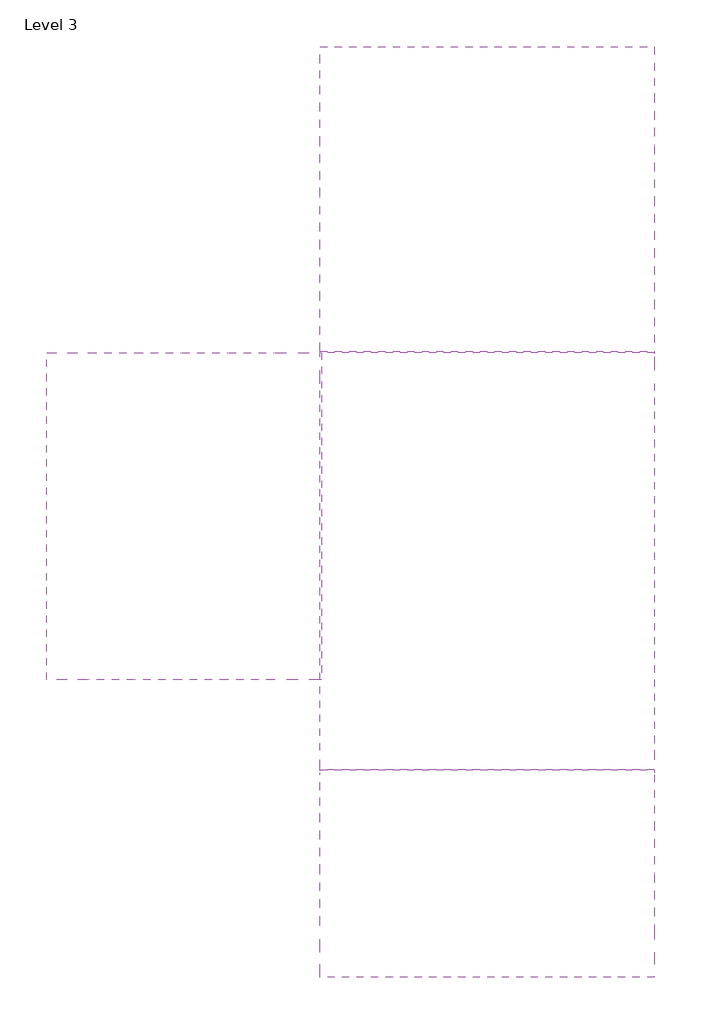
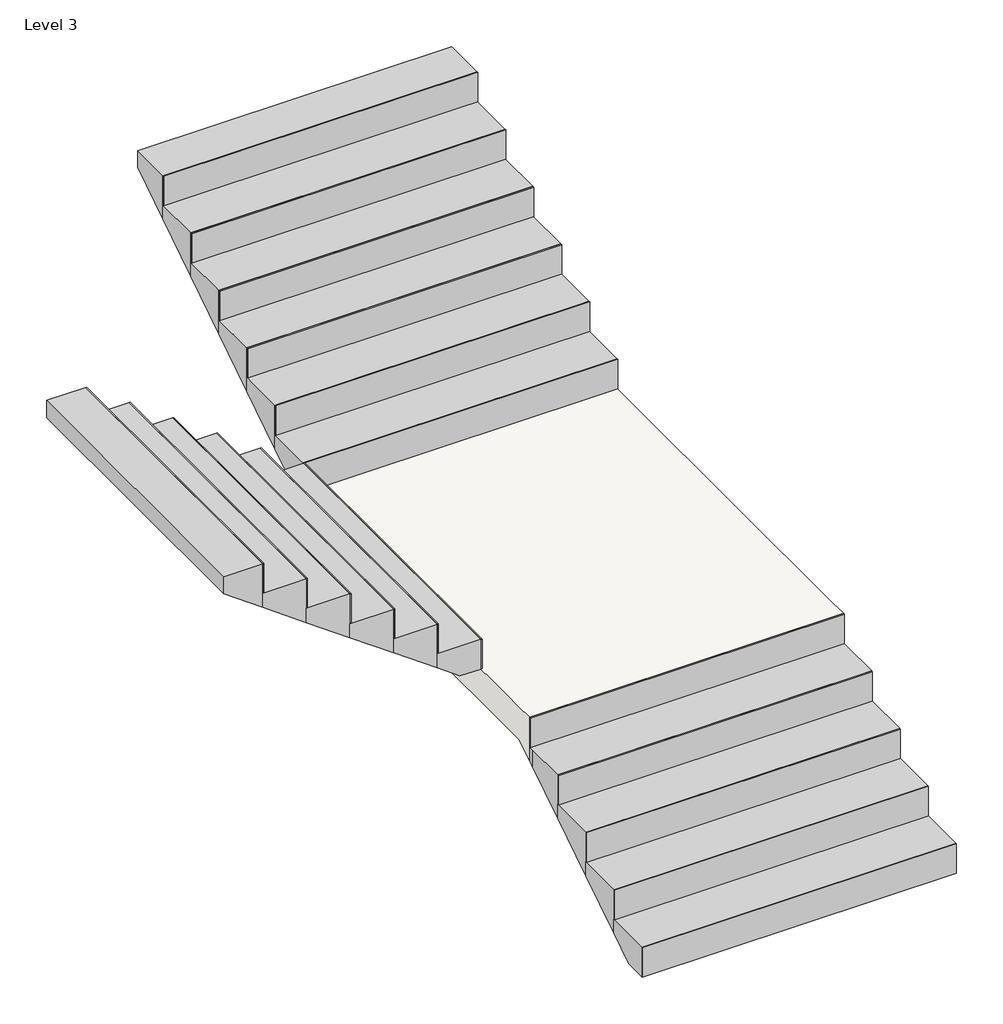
# One storey: 3 stair flights, 1 slab.
"""IFC4 building model written with IfcOpenShell, lengths in millimetres."""

import ifcopenshell
import ifcopenshell.guid

model = None  # the IFC model being written
_history = None  # IfcOwnerHistory: only IFC2X3 demands one
_inside = {}  # id of a spatial element -> (the spatial element, [elements in it])
_under = {}  # id of a project, library or spatial element -> (it, [spatial elements below it])
_declared = {}  # id of a project -> (the project, [libraries it declares])
_typed = {}  # id of a type object -> (the type object, [elements of that type])
_made_of = {}  # id of a material, layer set ... -> (it, [elements and type objects made of it])


def new_model(schema):
    """Start an empty IFC model of exactly this schema.

    Asked for "IFC4X3", IfcOpenShell would pick the latest addendum, in which some entities
    have other attributes; the version numbers below select the first issue.
    IFC2X3 requires an IfcOwnerHistory on every rooted entity: one is made here for all.
    """
    global model, _history
    if schema == "IFC4X3":
        model = ifcopenshell.file(schema_version=(4, 3, 0, 0))
    else:
        model = ifcopenshell.file(schema=schema)
    _inside.clear()
    _under.clear()
    _declared.clear()
    _typed.clear()
    _made_of.clear()
    _history = None
    if model.schema == "IFC2X3":
        org = make("IfcOrganization", Name="unknown")
        user = make(
            "IfcPersonAndOrganization",
            ThePerson=make("IfcPerson", FamilyName="unknown"),
            TheOrganization=org,
        )
        app = make(
            "IfcApplication",
            ApplicationDeveloper=org,
            Version="unknown",
            ApplicationFullName="unknown",
            ApplicationIdentifier="unknown",
        )
        _history = make(
            "IfcOwnerHistory",
            OwningUser=user,
            OwningApplication=app,
            ChangeAction="ADDED",
            CreationDate=0,
        )
    return model


def make(cls, **values):
    """One entity of the class cls with the attributes given. An attribute that is None is left unset."""
    return model.create_entity(
        cls, **{name: value for name, value in values.items() if value is not None}
    )


def rooted(cls, **values):
    """An entity with a GlobalId (a new one), such as an element, a storey or a relation."""
    return make(cls, GlobalId=ifcopenshell.guid.new(), OwnerHistory=_history, **values)


def si_unit(unit_type, name, prefix=None):
    """IfcSIUnit, for example si_unit("LENGTHUNIT", "METRE", prefix="MILLI")."""
    return make("IfcSIUnit", UnitType=unit_type, Prefix=prefix, Name=name)


def assignment(units):
    """IfcUnitAssignment: the units of a project."""
    return None if units is None else make("IfcUnitAssignment", Units=units)


def point(xyz):
    """IfcCartesianPoint."""
    return None if xyz is None else make("IfcCartesianPoint", Coordinates=xyz)


def direction(xyz):
    """IfcDirection."""
    return None if xyz is None else make("IfcDirection", DirectionRatios=xyz)


def frame(location, z_axis=None, x_axis=None):
    """IfcAxis2Placement3D, a coordinate frame: its origin and axes. An axis left out is left unset."""
    return make(
        "IfcAxis2Placement3D",
        Location=point(location),
        Axis=direction(z_axis),
        RefDirection=direction(x_axis),
    )


def origin():
    """The frame at (0, 0, 0) with its axes left unset."""
    return frame((0.0, 0.0, 0.0))


def place(relative_to, where):
    """IfcLocalPlacement: puts the frame where relative to a parent placement (None: the world)."""
    return make(
        "IfcLocalPlacement", PlacementRelTo=relative_to, RelativePlacement=where
    )


def context(
    kind, dimensions, precision=None, world=None, true_north=None, identifier=None
):
    """IfcGeometricRepresentationContext, for example the 3D "Model" context."""
    return make(
        "IfcGeometricRepresentationContext",
        ContextIdentifier=identifier,
        ContextType=kind,
        CoordinateSpaceDimension=dimensions,
        Precision=precision,
        WorldCoordinateSystem=world,
        TrueNorth=true_north,
    )


def project(units=None, contexts=None):
    """IfcProject with its units and contexts."""
    return rooted(
        "IfcProject",
        Name="project",
        RepresentationContexts=contexts,
        UnitsInContext=assignment(units),
    )


def spatial(cls, under=None, at=None, **own):
    """A site, building, storey or space (cls), placed at a placement, below another one or the project."""
    s = rooted(cls, ObjectPlacement=at, **own)
    if under is not None:
        _under.setdefault(under.id(), (under, []))[1].append(s)
    return s


def polyline(points):
    """IfcPolyline through the points."""
    return make("IfcPolyline", Points=[point(p) for p in points])


def outline(outer, holes=None, kind="AREA"):
    """IfcArbitraryClosedProfileDef: a profile drawn as a closed curve; with holes, ...WithVoids."""
    if holes is None:
        return make("IfcArbitraryClosedProfileDef", ProfileType=kind, OuterCurve=outer)
    return make(
        "IfcArbitraryProfileDefWithVoids",
        ProfileType=kind,
        OuterCurve=outer,
        InnerCurves=holes,
    )


def extrude(swept, where, along, depth):
    """IfcExtrudedAreaSolid: the profile swept, set in the frame where, extruded along a direction by depth."""
    return make(
        "IfcExtrudedAreaSolid",
        SweptArea=swept,
        Position=where,
        ExtrudedDirection=direction(along),
        Depth=depth,
    )


def faces_of(points, faces, orient=None, outer=None):
    """IfcFace entities. A face is a list of loops; a loop is a list of indices into points, from 0.

    orient and outer hold one flag for each loop. By default every Orientation is true, the
    first loop of a face is its IfcFaceOuterBound and the others are IfcFaceBound.
    """
    made = []
    for i, loops in enumerate(faces):
        bounds = []
        for j, loop in enumerate(loops):
            is_outer = j == 0 if outer is None else outer[i][j]
            bounds.append(
                make(
                    "IfcFaceOuterBound" if is_outer else "IfcFaceBound",
                    Bound=make("IfcPolyLoop", Polygon=[points[k] for k in loop]),
                    Orientation=True if orient is None else orient[i][j],
                )
            )
        made.append(make("IfcFace", Bounds=bounds))
    return made


def faceted_brep(points, faces, orient=None, outer=None, voids=None):
    """IfcFacetedBrep: a solid bounded by flat faces; with voids (closed shells), ...WithVoids."""
    shared = [point(p) for p in points]
    hull = make("IfcClosedShell", CfsFaces=faces_of(shared, faces, orient, outer))
    if voids is None:
        return make("IfcFacetedBrep", Outer=hull)
    return make(
        "IfcFacetedBrepWithVoids",
        Outer=hull,
        Voids=[
            make(cls, CfsFaces=faces_of(shared, fs, o, b)) for cls, fs, o, b in voids
        ],
    )


def shape(context_of_items, identifier, shape_type, items):
    """IfcShapeRepresentation: the items that make up one representation, for example the "Body"."""
    return make(
        "IfcShapeRepresentation",
        ContextOfItems=context_of_items,
        RepresentationIdentifier=identifier,
        RepresentationType=shape_type,
        Items=items,
    )


def made_of(thing, what):
    """Note that an element or type object is made of a material, layer set ...; save() writes the relation."""
    if what is not None:
        _made_of.setdefault(what.id(), (what, []))[1].append(thing)
    return thing


def element(
    cls,
    number,
    at=None,
    inside=None,
    cuts=None,
    type_object=None,
    material=None,
    context=None,
    identifier="Body",
    shape_type=None,
    held_by="IfcProductDefinitionShape",
    body=None,
    shapes=None,
    **own,
):
    """One element of the class cls, such as IfcWall. Its Tag is "e" and its number.

    at: its placement. inside: the storey or other place that contains it. cuts: it is an
    opening in that element (IfcRelVoidsElement). A single representation is given by context,
    identifier, shape_type and body (its items); several are given by shapes. held_by: the class
    of the entity that holds the representations. save() writes the other relations.
    """
    e = rooted(cls, Tag="e%d" % number, ObjectPlacement=at, **own)
    if body is not None:
        shapes = [shape(context, identifier, shape_type, body)]
    if shapes is not None:
        e.Representation = make(held_by, Representations=shapes)
    if inside is not None:
        _inside.setdefault(inside.id(), (inside, []))[1].append(e)
    if cuts is not None:
        rooted(
            "IfcRelVoidsElement", RelatingBuildingElement=cuts, RelatedOpeningElement=e
        )
    if type_object is not None:
        _typed.setdefault(type_object.id(), (type_object, []))[1].append(e)
    return made_of(e, material)


def aggregate(whole, parts):
    """IfcRelAggregates: a whole, such as a stair, and the parts it consists of."""
    return rooted("IfcRelAggregates", RelatingObject=whole, RelatedObjects=parts)


def save(model, path):
    """Write the relations noted so far, then the file.

    IfcRelAggregates (storeys below a building ...), IfcRelContainedInSpatialStructure (elements
    in a storey), IfcRelDefinesByType, IfcRelAssociatesMaterial and IfcRelDeclares: one each for
    every whole, place, type object, material and project.
    """
    for whole, parts in _under.values():
        aggregate(whole, parts)
    for where, things in _inside.values():
        rooted(
            "IfcRelContainedInSpatialStructure",
            RelatedElements=things,
            RelatingStructure=where,
        )
    for kind, things in _typed.values():
        rooted("IfcRelDefinesByType", RelatedObjects=things, RelatingType=kind)
    for what, things in _made_of.values():
        rooted("IfcRelAssociatesMaterial", RelatedObjects=things, RelatingMaterial=what)
    for by, libraries in _declared.values():
        rooted("IfcRelDeclares", RelatingContext=by, RelatedDefinitions=libraries)
    model.write(path)


model = new_model("IFC4")

# Units and contexts
model_context = context("Model", 3, world=origin())
ifc_project = project(units=[si_unit("LENGTHUNIT", "METRE", prefix="MILLI")], contexts=[model_context])

# Site, building, storey
site = spatial("IfcSite", under=ifc_project)
building = spatial("IfcBuilding", under=site)
storey = spatial("IfcBuildingStorey", under=building, Name="Level 3", Elevation=-3200.4)

# Slab
placement = place(None, origin())
element("IfcSlab", 1, ObjectType="7\" Thickness", at=placement, inside=storey, context=model_context, shape_type="Brep", body=[
    faceted_brep([(-12977.6791902, 8567.3929308, -983.6727273), (-11333.1527068, 8567.3929308, -983.6727273), (-11333.1527068, 8663.0218218, -983.6727273), (-11333.1527068, 10465.0860406, -983.6727273), (-11333.1527068, 10598.0571497, -983.6727273), (-11333.1527068, 10623.4571497, -983.6727273), (-12977.6791902, 10623.4571497, -983.6727273), (-12977.6791902, 10598.0571497, -983.6727273), (-12977.6791902, 10465.0860406, -983.6727273), (-12977.6791902, 8663.0218218, -983.6727273), (-12977.6791902, 8567.3929308, -1223.1968296), (-12977.6791902, 8567.3929308, -1147.6181818), (-12977.6791902, 10598.0571497, -1075.6459205), (-12977.6791902, 10465.0860406, -1161.4727273), (-12977.6791902, 8663.0218218, -1161.4727273), (-11333.1527068, 8567.3929308, -1147.6181818), (-11333.1527068, 8567.3929308, -1223.1968296), (-11333.1527068, 8663.0218218, -1161.4727273), (-11333.1527068, 10465.0860406, -1161.4727273), (-11333.1527068, 10598.0571497, -1075.6459205), (-11333.1527068, 10623.4571497, -1059.2513751), (-12977.6791902, 10623.4571497, -1059.2513751)], [[[0, 1, 2, 3, 4, 5, 6, 7, 8, 9]], [[10, 11, 0, 9, 8, 7, 12, 13, 14]], [[1, 15, 16, 17, 18, 19, 4, 3, 2]], [[17, 14, 13, 18]], [[1, 0, 11, 10, 16, 15]], [[14, 17, 16, 10]], [[6, 5, 20, 21]], [[18, 13, 12, 21, 20, 19]], [[5, 4, 19, 20]], [[7, 6, 21, 12]]]),
])

# Stair flights
element("IfcStairFlight", 2, ObjectType="3/4\" Nosing", at=placement, inside=storey, context=model_context, shape_type="SolidModel", body=[
    faceted_brep([(-12977.6791902, 7805.3929308, -1639.4545455), (-12977.6791902, 7551.3929308, -1639.4545455), (-11333.1527068, 7551.3929308, -1639.4545455), (-11333.1527068, 7805.3929308, -1639.4545455), (-12977.6791902, 7805.3929308, -1715.0331933), (-12977.6791902, 7668.4866105, -1803.4), (-12977.6791902, 7551.3929308, -1803.4), (-11333.1527068, 7551.3929308, -1803.4), (-11333.1527068, 7668.4866105, -1803.4), (-11333.1527068, 7805.3929308, -1715.0331933), (-12977.6791902, 8059.3929308, -1475.5090909), (-12977.6791902, 7805.3929308, -1475.5090909), (-11333.1527068, 7805.3929308, -1475.5090909), (-11333.1527068, 8059.3929308, -1475.5090909), (-12977.6791902, 8059.3929308, -1551.0877387), (-11333.1527068, 8059.3929308, -1551.0877387), (-12977.6791902, 8313.3929308, -1311.5636364), (-12977.6791902, 8059.3929308, -1311.5636364), (-11333.1527068, 8059.3929308, -1311.5636364), (-11333.1527068, 8313.3929308, -1311.5636364), (-12977.6791902, 8313.3929308, -1387.1422842), (-11333.1527068, 8313.3929308, -1387.1422842), (-12977.6791902, 8567.3929308, -1147.6181818), (-12977.6791902, 8541.9929308, -1147.6181818), (-12977.6791902, 8313.3929308, -1147.6181818), (-11333.1527068, 8313.3929308, -1147.6181818), (-11333.1527068, 8541.9929308, -1147.6181818), (-11333.1527068, 8567.3929308, -1147.6181818), (-12977.6791902, 8567.3929308, -1223.1968296), (-12977.6791902, 8541.9929308, -1239.5913751), (-11333.1527068, 8541.9929308, -1239.5913751), (-11333.1527068, 8567.3929308, -1223.1968296)], [[[0, 1, 2, 3]], [[1, 0, 4, 5, 6]], [[2, 1, 6, 7]], [[3, 2, 7, 8, 9]], [[10, 11, 12, 13]], [[11, 10, 14, 4, 0]], [[0, 3, 12, 11]], [[13, 12, 3, 9, 15]], [[16, 17, 18, 19]], [[17, 16, 20, 14, 10]], [[10, 13, 18, 17]], [[19, 18, 13, 15, 21]], [[22, 23, 24, 25, 26, 27]], [[23, 22, 28, 29]], [[16, 19, 25, 24]], [[26, 25, 19, 21, 30]], [[22, 27, 31, 28]], [[7, 6, 5, 8]], [[8, 5, 4, 14, 20, 29, 28, 31, 30, 21, 15, 9]], [[24, 23, 29, 20, 16]], [[27, 26, 30, 31]]]),
    extrude(outline(polyline([(-11333.1527068, 7551.3929308), (-11333.1527068, 7545.0429308), (-12977.6791902, 7545.0429308), (-12977.6791902, 7551.3929308), (-11333.1527068, 7551.3929308)])), frame((0.0, 0.0, -1803.4), z_axis=(0.0, 0.0, 1.0), x_axis=(1.0, 0.0, 0.0)), (0.0, 0.0, 1.0), 163.9454545),
    extrude(outline(polyline([(-11333.1527068, 7805.3929308), (-11333.1527068, 7799.0429308), (-12977.6791902, 7799.0429308), (-12977.6791902, 7805.3929308), (-11333.1527068, 7805.3929308)])), frame((0.0, 0.0, -1639.4545455), z_axis=(0.0, 0.0, 1.0), x_axis=(1.0, 0.0, 0.0)), (0.0, 0.0, 1.0), 163.9454545),
    extrude(outline(polyline([(-11333.1527068, 8059.3929308), (-11333.1527068, 8053.0429308), (-12977.6791902, 8053.0429308), (-12977.6791902, 8059.3929308), (-11333.1527068, 8059.3929308)])), frame((0.0, 0.0, -1475.5090909), z_axis=(0.0, 0.0, 1.0), x_axis=(1.0, 0.0, 0.0)), (0.0, 0.0, 1.0), 163.9454545),
    extrude(outline(polyline([(-11333.1527068, 8313.3929308), (-11333.1527068, 8307.0429308), (-12977.6791902, 8307.0429308), (-12977.6791902, 8313.3929308), (-11333.1527068, 8313.3929308)])), frame((0.0, 0.0, -1311.5636364), z_axis=(0.0, 0.0, 1.0), x_axis=(1.0, 0.0, 0.0)), (0.0, 0.0, 1.0), 163.9454545),
    extrude(outline(polyline([(-11333.1527068, 8567.3929308), (-11333.1527068, 8561.0429308), (-12977.6791902, 8561.0429308), (-12977.6791902, 8567.3929308), (-11333.1527068, 8567.3929308)])), frame((0.0, 0.0, -1147.6181818), z_axis=(0.0, 0.0, 1.0), x_axis=(1.0, 0.0, 0.0)), (0.0, 0.0, 1.0), 163.9454545),
])
element("IfcStairFlight", 3, ObjectType="3/4\" Nosing", at=placement, inside=storey, context=model_context, shape_type="SolidModel", body=[
    faceted_brep([(-12977.6791902, 10877.4571497, -819.7272727), (-12977.6791902, 10623.4571497, -819.7272727), (-11333.1527068, 10623.4571497, -819.7272727), (-11333.1527068, 10877.4571497, -819.7272727), (-12977.6791902, 10877.4571497, -895.3059205), (-12977.6791902, 10623.4571497, -1059.2513751), (-12977.6791902, 10623.4571497, -983.6727273), (-11333.1527068, 10623.4571497, -1059.2513751), (-11333.1527068, 10623.4571497, -983.6727273), (-11333.1527068, 10877.4571497, -895.3059205), (-12977.6791902, 11131.4571497, -655.7818182), (-12977.6791902, 10877.4571497, -655.7818182), (-11333.1527068, 10877.4571497, -655.7818182), (-11333.1527068, 11131.4571497, -655.7818182), (-12977.6791902, 11131.4571497, -731.360466), (-11333.1527068, 11131.4571497, -731.360466), (-12977.6791902, 11385.4571497, -491.8363636), (-12977.6791902, 11131.4571497, -491.8363636), (-11333.1527068, 11131.4571497, -491.8363636), (-11333.1527068, 11385.4571497, -491.8363636), (-12977.6791902, 11385.4571497, -567.4150114), (-11333.1527068, 11385.4571497, -567.4150114), (-12977.6791902, 11639.4571497, -327.8909091), (-12977.6791902, 11385.4571497, -327.8909091), (-11333.1527068, 11385.4571497, -327.8909091), (-11333.1527068, 11639.4571497, -327.8909091), (-12977.6791902, 11639.4571497, -403.4695569), (-11333.1527068, 11639.4571497, -403.4695569), (-12977.6791902, 11893.4571497, -239.5241024), (-12977.6791902, 12039.4245008, -145.3088121), (-12977.6791902, 12122.0571497, -91.9731933), (-11333.1527068, 12122.0571497, -91.9731933), (-11333.1527068, 12039.4245008, -145.3088121), (-11333.1527068, 11893.4571497, -239.5241024), (-12977.6791902, 11893.4571497, -163.9454545), (-12977.6791902, 11639.4571497, -163.9454545), (-11333.1527068, 11639.4571497, -163.9454545), (-11333.1527068, 11893.4571497, -163.9454545), (-12977.6791902, 12122.0571497, 0.0), (-12977.6791902, 12039.4245008, 0.0), (-12977.6791902, 11893.4571497, 0.0), (-11333.1527068, 11893.4571497, 0.0), (-11333.1527068, 12122.0571497, 0.0)], [[[0, 1, 2, 3]], [[1, 0, 4, 5, 6]], [[2, 1, 6, 5, 7, 8]], [[3, 2, 8, 7, 9]], [[10, 11, 12, 13]], [[11, 10, 14, 4, 0]], [[12, 11, 0, 3]], [[13, 12, 3, 9, 15]], [[16, 17, 18, 19]], [[17, 16, 20, 14, 10]], [[18, 17, 10, 13]], [[19, 18, 13, 15, 21]], [[22, 23, 24, 25]], [[23, 22, 26, 20, 16]], [[24, 23, 16, 19]], [[25, 24, 19, 21, 27]], [[5, 4, 14, 20, 26, 28, 29, 30, 31, 32, 33, 27, 21, 15, 9, 7]], [[34, 35, 36, 37]], [[35, 34, 28, 26, 22]], [[36, 35, 22, 25]], [[37, 36, 25, 27, 33]], [[38, 39, 40, 41, 42]], [[40, 39, 38, 30, 29, 28, 34]], [[41, 40, 34, 37]], [[42, 41, 37, 33, 32, 31]], [[38, 42, 31, 30]]]),
    extrude(outline(polyline([(-11333.1527068, 10623.4571497), (-11333.1527068, 10617.1071497), (-12977.6791902, 10617.1071497), (-12977.6791902, 10623.4571497), (-11333.1527068, 10623.4571497)])), frame((0.0, 0.0, -983.6727273), z_axis=(0.0, 0.0, 1.0), x_axis=(1.0, 0.0, 0.0)), (0.0, 0.0, 1.0), 163.9454545),
    extrude(outline(polyline([(-11333.1527068, 10877.4571497), (-11333.1527068, 10871.1071497), (-12977.6791902, 10871.1071497), (-12977.6791902, 10877.4571497), (-11333.1527068, 10877.4571497)])), frame((0.0, 0.0, -819.7272727), z_axis=(0.0, 0.0, 1.0), x_axis=(1.0, 0.0, 0.0)), (0.0, 0.0, 1.0), 163.9454545),
    extrude(outline(polyline([(-11333.1527068, 11131.4571497), (-11333.1527068, 11125.1071497), (-12977.6791902, 11125.1071497), (-12977.6791902, 11131.4571497), (-11333.1527068, 11131.4571497)])), frame((0.0, 0.0, -655.7818182), z_axis=(0.0, 0.0, 1.0), x_axis=(1.0, 0.0, 0.0)), (0.0, 0.0, 1.0), 163.9454545),
    extrude(outline(polyline([(-11333.1527068, 11385.4571497), (-11333.1527068, 11379.1071497), (-12977.6791902, 11379.1071497), (-12977.6791902, 11385.4571497), (-11333.1527068, 11385.4571497)])), frame((0.0, 0.0, -491.8363636), z_axis=(0.0, 0.0, 1.0), x_axis=(1.0, 0.0, 0.0)), (0.0, 0.0, 1.0), 163.9454545),
    extrude(outline(polyline([(-11333.1527068, 11639.4571497), (-11333.1527068, 11633.1071497), (-12977.6791902, 11633.1071497), (-12977.6791902, 11639.4571497), (-11333.1527068, 11639.4571497)])), frame((0.0, 0.0, -327.8909091), z_axis=(0.0, 0.0, 1.0), x_axis=(1.0, 0.0, 0.0)), (0.0, 0.0, 1.0), 163.9454545),
    extrude(outline(polyline([(-11333.1527068, 11893.4571497), (-11333.1527068, 11887.1071497), (-12977.6791902, 11887.1071497), (-12977.6791902, 11893.4571497), (-11333.1527068, 11893.4571497)])), frame((0.0, 0.0, -163.9454545), z_axis=(0.0, 0.0, 1.0), x_axis=(1.0, 0.0, 0.0)), (0.0, 0.0, 1.0), 163.9454545),
])
element("IfcStairFlight", 4, ObjectType="3/4\" Nosing", at=placement, inside=storey, context=model_context, shape_type="SolidModel", body=[
    faceted_brep([(-12977.6791902, 10617.0245008, -983.45625), (-12977.6791902, 9009.2921755, -983.45625), (-13086.6536477, 9009.2921755, -983.45625), (-13086.6536477, 10617.0245008, -983.45625), (-13206.2791902, 9009.2921755, -897.6830745), (-13434.8791902, 9009.2921755, -733.7736995), (-13663.4791902, 9009.2921755, -569.8643245), (-13892.0791902, 9009.2921755, -405.9549495), (-14120.6791902, 9009.2921755, -242.0455745), (-14323.8791902, 9009.2921755, -96.3483523), (-14323.8791902, 10617.0245008, -96.3483523), (-14120.6791902, 10617.0245008, -242.0455745), (-13892.0791902, 10617.0245008, -405.9549495), (-13663.4791902, 10617.0245008, -569.8643245), (-13434.8791902, 10617.0245008, -733.7736995), (-13206.2791902, 10617.0245008, -897.6830745), (-13206.2791902, 9009.2921755, -819.546875), (-12977.6791902, 9009.2921755, -819.546875), (-12977.6791902, 10617.0245008, -819.546875), (-13206.2791902, 10617.0245008, -819.546875), (-13434.8791902, 9009.2921755, -655.6375), (-13206.2791902, 9009.2921755, -655.6375), (-13206.2791902, 10617.0245008, -655.6375), (-13434.8791902, 10617.0245008, -655.6375), (-13663.4791902, 9009.2921755, -491.728125), (-13434.8791902, 9009.2921755, -491.728125), (-13434.8791902, 10617.0245008, -491.728125), (-13663.4791902, 10617.0245008, -491.728125), (-13892.0791902, 9009.2921755, -327.81875), (-13663.4791902, 9009.2921755, -327.81875), (-13663.4791902, 10617.0245008, -327.81875), (-13892.0791902, 10617.0245008, -327.81875), (-14120.6791902, 9009.2921755, -163.909375), (-13892.0791902, 9009.2921755, -163.909375), (-13892.0791902, 10617.0245008, -163.909375), (-14120.6791902, 10617.0245008, -163.909375), (-14323.8791902, 9009.2921755, 0.0), (-14120.6791902, 9009.2921755, 0.0), (-14120.6791902, 10617.0245008, 0.0), (-14323.8791902, 10617.0245008, 0.0)], [[[0, 1, 2, 3]], [[3, 2, 4, 5, 6, 7, 8, 9, 10, 11, 12, 13, 14, 15]], [[16, 17, 18, 19]], [[17, 16, 4, 2, 1]], [[18, 17, 1, 0]], [[19, 18, 0, 3, 15]], [[20, 21, 22, 23]], [[21, 20, 5, 4, 16]], [[16, 19, 22, 21]], [[23, 22, 19, 15, 14]], [[24, 25, 26, 27]], [[25, 24, 6, 5, 20]], [[20, 23, 26, 25]], [[27, 26, 23, 14, 13]], [[28, 29, 30, 31]], [[29, 28, 7, 6, 24]], [[24, 27, 30, 29]], [[31, 30, 27, 13, 12]], [[32, 33, 34, 35]], [[33, 32, 8, 7, 28]], [[28, 31, 34, 33]], [[35, 34, 31, 12, 11]], [[36, 37, 38, 39]], [[37, 36, 9, 8, 32]], [[32, 35, 38, 37]], [[39, 38, 35, 11, 10]], [[36, 39, 10, 9]]]),
    extrude(outline(polyline([(-12977.6791902, 10617.0245008), (-12971.3291902, 10617.0245008), (-12971.3291902, 9009.2921755), (-12977.6791902, 9009.2921755), (-12977.6791902, 10617.0245008)])), frame((0.0, 0.0, -983.45625), z_axis=(0.0, 0.0, 1.0), x_axis=(1.0, 0.0, 0.0)), (0.0, 0.0, 1.0), 163.909375),
    extrude(outline(polyline([(-13206.2791902, 10617.0245008), (-13199.9291902, 10617.0245008), (-13199.9291902, 9009.2921755), (-13206.2791902, 9009.2921755), (-13206.2791902, 10617.0245008)])), frame((0.0, 0.0, -819.546875), z_axis=(0.0, 0.0, 1.0), x_axis=(1.0, 0.0, 0.0)), (0.0, 0.0, 1.0), 163.909375),
    extrude(outline(polyline([(-13434.8791902, 10617.0245008), (-13428.5291902, 10617.0245008), (-13428.5291902, 9009.2921755), (-13434.8791902, 9009.2921755), (-13434.8791902, 10617.0245008)])), frame((0.0, 0.0, -655.6375), z_axis=(0.0, 0.0, 1.0), x_axis=(1.0, 0.0, 0.0)), (0.0, 0.0, 1.0), 163.909375),
    extrude(outline(polyline([(-13663.4791902, 10617.0245008), (-13657.1291902, 10617.0245008), (-13657.1291902, 9009.2921755), (-13663.4791902, 9009.2921755), (-13663.4791902, 10617.0245008)])), frame((0.0, 0.0, -491.728125), z_axis=(0.0, 0.0, 1.0), x_axis=(1.0, 0.0, 0.0)), (0.0, 0.0, 1.0), 163.909375),
    extrude(outline(polyline([(-13892.0791902, 10617.0245008), (-13885.7291902, 10617.0245008), (-13885.7291902, 9009.2921755), (-13892.0791902, 9009.2921755), (-13892.0791902, 10617.0245008)])), frame((0.0, 0.0, -327.81875), z_axis=(0.0, 0.0, 1.0), x_axis=(1.0, 0.0, 0.0)), (0.0, 0.0, 1.0), 163.909375),
    extrude(outline(polyline([(-14120.6791902, 10617.0245008), (-14114.3291902, 10617.0245008), (-14114.3291902, 9009.2921755), (-14120.6791902, 9009.2921755), (-14120.6791902, 10617.0245008)])), frame((0.0, 0.0, -163.909375), z_axis=(0.0, 0.0, 1.0), x_axis=(1.0, 0.0, 0.0)), (0.0, 0.0, 1.0), 163.909375),
])

save(model, "model.ifc")
